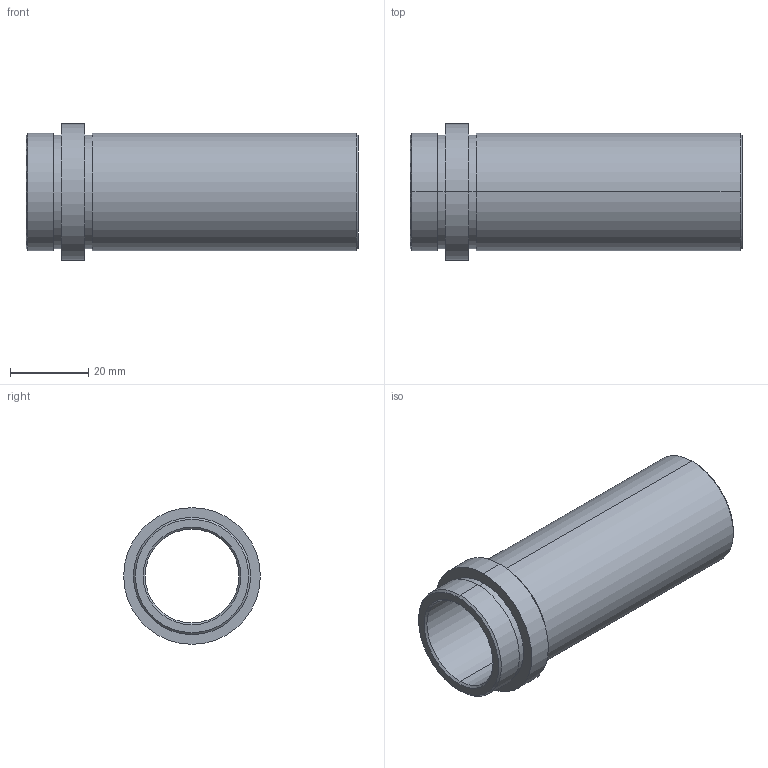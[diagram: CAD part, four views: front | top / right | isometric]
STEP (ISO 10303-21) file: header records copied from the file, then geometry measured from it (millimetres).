
FILE_DESCRIPTION( ( 'STEP AP203' ), '1' );
FILE_NAME( 'D:/Delta 3 D/D21/D21 - 24x76.step', '2002-12-31T22:47:58', ( ' ' ), ( ' ' ), 'XStep 1.0', ' ', ' ' );
FILE_SCHEMA( ( 'CONFIG_CONTROL_DESIGN' ) );
Length unit declared in the file: metre
Products named in the file (1): 1
Bounding box: 85 x 35 x 35 mm (x, y, z)
Volume: 22933.6 mm3; surface area: 15607 mm2
Topology: 1 solids, 1 shells, 26 faces, 52 edges, 32 vertices
Faces by surface type: revolution 20, bspline 6
Entity records: 773 total; most frequent: CARTESIAN_POINT 169, DIRECTION 106, ORIENTED_EDGE 104, EDGE_CURVE 52, AXIS2_PLACEMENT_3D 33, EDGE_LOOP 32, VERTEX_POINT 32, CIRCLE 32
